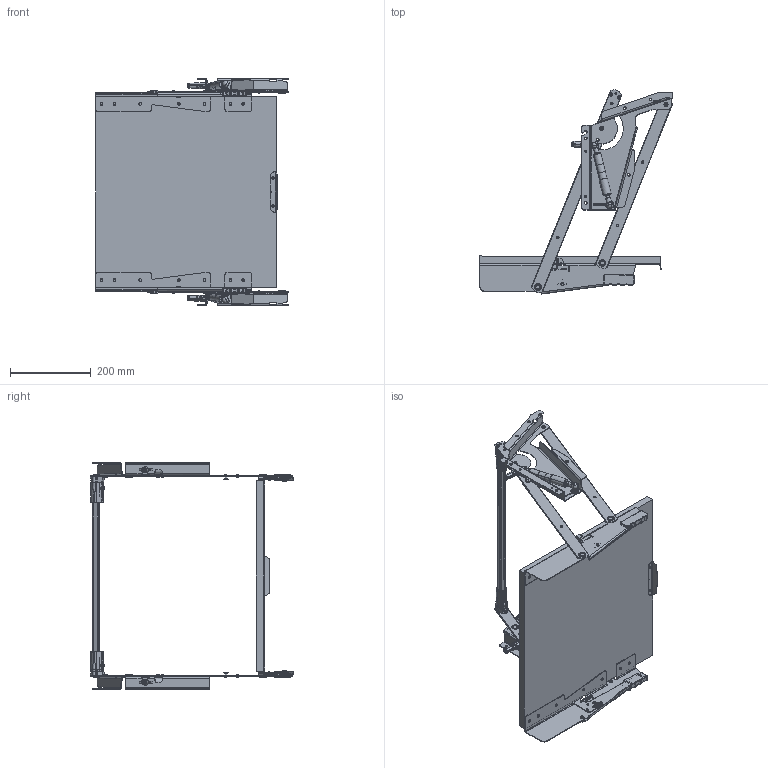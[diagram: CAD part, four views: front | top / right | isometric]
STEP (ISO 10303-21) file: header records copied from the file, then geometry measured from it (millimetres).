
FILE_DESCRIPTION((''),'2;1');
FILE_NAME('3D-281902-00_ASM','2025-11-10T08:36:44',('1ke04'),('Kesseboehmer_Holding_KG'),'CREO PARAMETRIC BY PTC INC, 2025123','CREO PARAMETRIC BY PTC INC, 2025123','');
FILE_SCHEMA(('AUTOMOTIVE_DESIGN { 1 0 10303 214 1 1 1 1 }'));
Products named in the file (5): 3D-830854-LI; 3D-830870-ARBEITSPLATTE; 3D-195595-00; 3D-830855-RE; 3D-281902-00_ASM
Assembly tree (4 placements, depth 2):
  3D-281902-00_ASM
    3D-830854-LI
    3D-830870-ARBEITSPLATTE
    3D-195595-00
    3D-830855-RE
Bounding box: 479.32 x 506.29 x 564 mm (x, y, z)
Volume: 4766282.8 mm3; surface area: 1128000.6 mm2
Topology: 11 solids, 11 shells, 4975 faces, 12420 edges, 7566 vertices
Faces by surface type: cylinder 1550, plane 1508, bspline 786, torus 470, cone 269, extrusion 236, sphere 156
Entity records: 332159 total; most frequent: CARTESIAN_POINT 186266, ORIENTED_EDGE 24696, DIRECTION 22337, EDGE_CURVE 12348, AXIS2_PLACEMENT_3D 8545, VERTEX_POINT 7566, EDGE_LOOP 5408, VECTOR 5247
